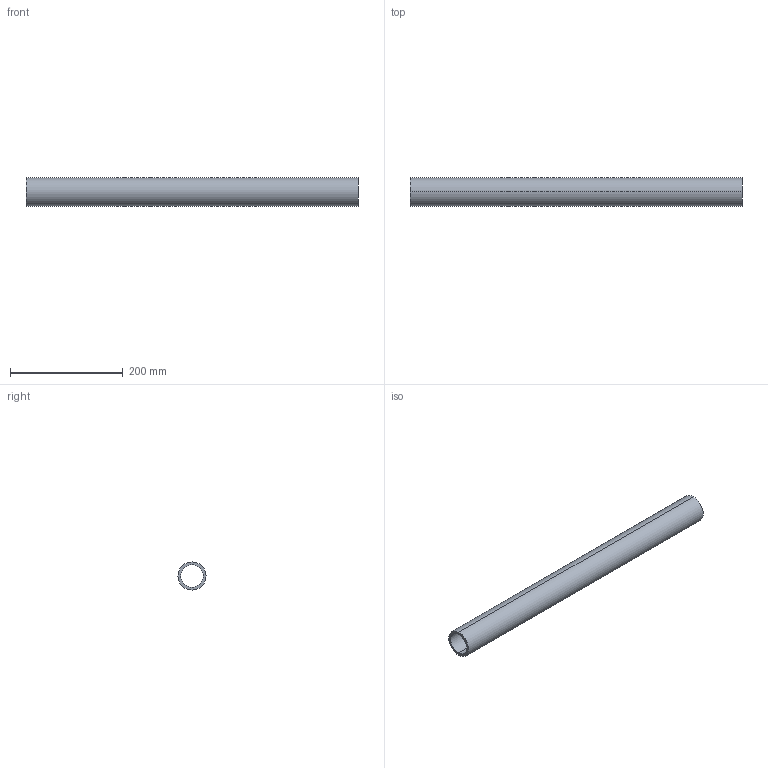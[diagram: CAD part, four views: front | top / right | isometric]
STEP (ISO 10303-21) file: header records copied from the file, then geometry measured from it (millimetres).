
FILE_DESCRIPTION (( 'STEP AP214' ), '1' );
FILE_NAME ('AGZ061.07_V1亚克力管.STEP', '2021-09-24T03:19:03', ( '微软中国' ), ( 'Microsoft' ), 'SwSTEP 2.0', 'SolidWorks 2017', '' );
FILE_SCHEMA (( 'AUTOMOTIVE_DESIGN' ));
Length unit declared in the file: millimetre
Products named in the file (1): AGZ061.07_V1捚親薯奪
Bounding box: 590 x 50 x 50 mm (x, y, z)
Volume: 417046.4 mm3; surface area: 168232.3 mm2
Topology: 1 solids, 1 shells, 6 faces, 12 edges, 8 vertices
Faces by surface type: cylinder 4, plane 2
Entity records: 202 total; most frequent: DIRECTION 34, CARTESIAN_POINT 27, ORIENTED_EDGE 24, AXIS2_PLACEMENT_3D 15, EDGE_CURVE 12, CIRCLE 8, VERTEX_POINT 8, EDGE_LOOP 8
